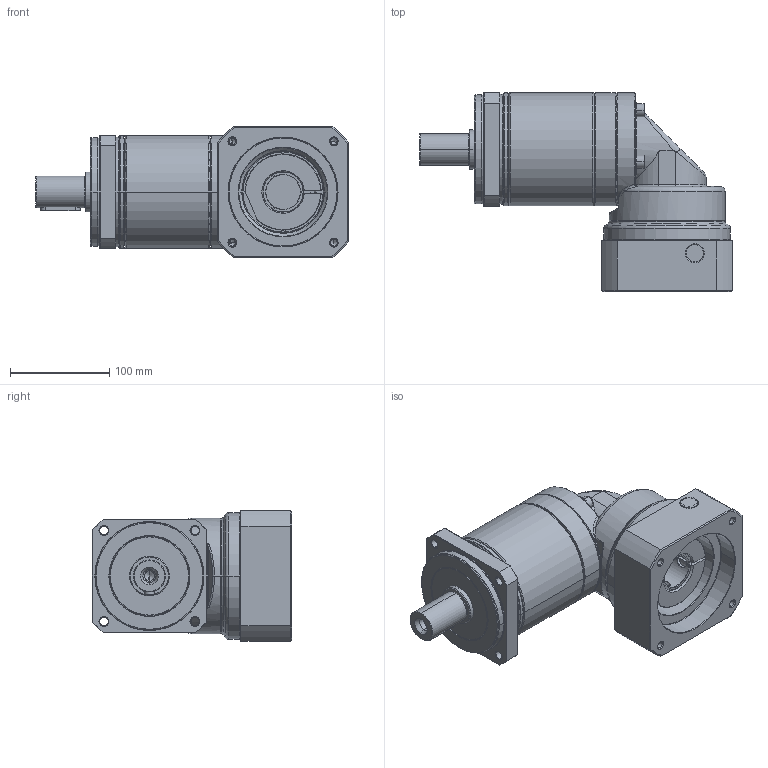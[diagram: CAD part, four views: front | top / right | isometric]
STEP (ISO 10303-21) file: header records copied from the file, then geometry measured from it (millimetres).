
FILE_DESCRIPTION((''),'2;1');
FILE_NAME('PA2R-115_2ST_35-P0411800101_ASM','2016-05-17T',('d01943'),(''),'PRO/ENGINEER BY PARAMETRIC TECHNOLOGY CORPORATION, 2008410','PRO/ENGINEER BY PARAMETRIC TECHNOLOGY CORPORATION, 2008410','');
FILE_SCHEMA(('CONFIG_CONTROL_DESIGN'));
Length unit declared in the file: millimetre
Products named in the file (12): P1327410001; P0251400001; P0350400601; P1349400001; P1017400001; P0713404001; P0503800010; P1350400401; P0411800101; P1702600001; 2111B108035; PA2R-115_2ST_35-P0411800101_ASM
Assembly tree (14 placements, depth 2):
  PA2R-115_2ST_35-P0411800101_ASM
    P1327410001
    P0251400001
    P0350400601
    P1349400001
    P1017400001
    P0713404001
    P0503800010
    P1350400401
    P0411800101
    P1702600001
    2111B108035  x4
Bounding box: 316 x 201 x 132 mm (x, y, z)
Volume: 2193458.3 mm3; surface area: 404792.5 mm2
Topology: 14 solids, 14 shells, 742 faces, 1634 edges, 942 vertices
Faces by surface type: cylinder 220, cone 214, plane 168, torus 108, bspline 32
Entity records: 23632 total; most frequent: CARTESIAN_POINT 9242, DIRECTION 3184, ORIENTED_EDGE 2792, EDGE_CURVE 1396, AXIS2_PLACEMENT_3D 1342, VERTEX_POINT 822, EDGE_LOOP 724, CIRCLE 705
